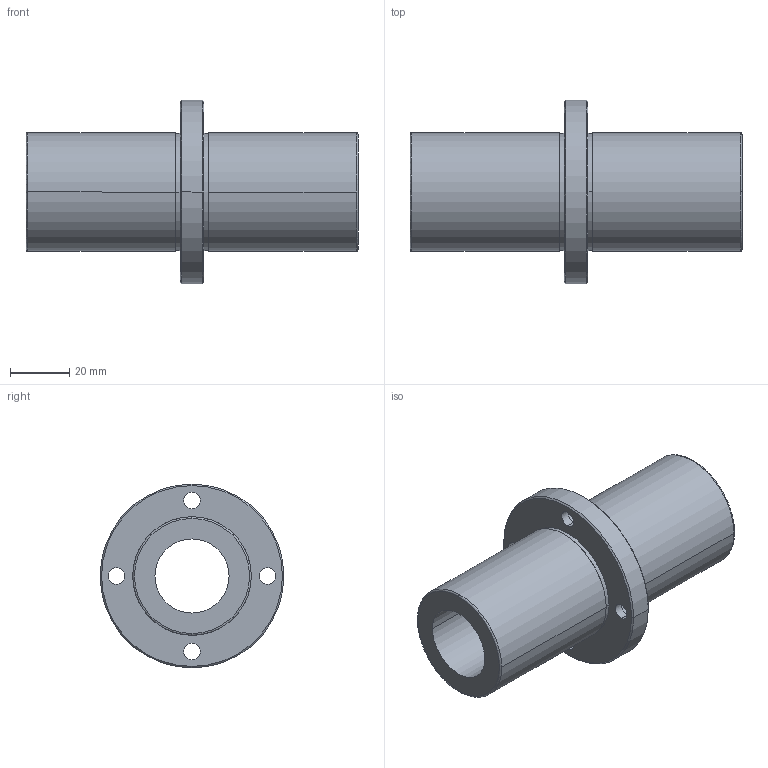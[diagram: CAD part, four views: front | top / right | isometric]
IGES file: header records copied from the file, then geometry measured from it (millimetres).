
Start section: 3D InterOp IGES (Version 21 0 1), Spatial Corp. Copyright (c) 1999-2007.
Global section: file name: NFCD-25VLUU.igs; native system: Spatial Corp.; preprocessor: 3D InterOp GENERIC/IGES 3.0; author: Noname; organization: Noname; date: 20220308.131850; units: millimetre
Bounding box: 112 x 62 x 62 mm (x, y, z)
Surface area: 29007.3 mm2 (no closed solid volume)
Topology: 0 solids, 0 shells, 46 faces, 210 edges, 210 vertices
Faces by surface type: revolution 36, extrusion 10
